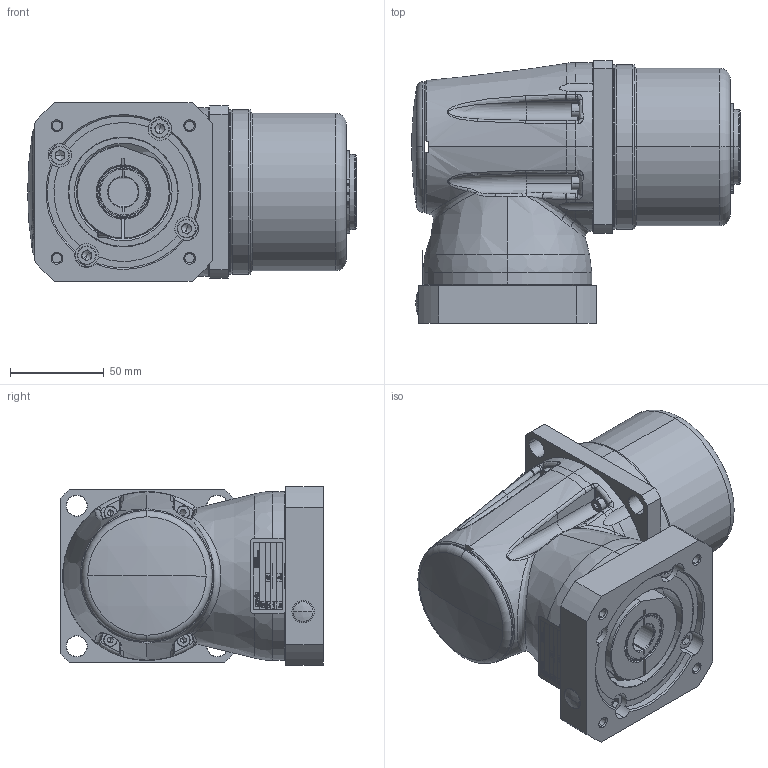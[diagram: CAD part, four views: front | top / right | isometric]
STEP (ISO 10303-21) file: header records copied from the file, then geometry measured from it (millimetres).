
FILE_DESCRIPTION (( 'STEP AP214' ), '1' );
FILE_NAME ('FL-020-0RR-FFF-MMM-S-LL-XXX-AXX-DDCC.STEP', '2019-10-30T15:43:29', ( '' ), ( '' ), 'SwSTEP 2.0', 'SolidWorks 2019', '' );
FILE_SCHEMA (( 'AUTOMOTIVE_DESIGN' ));
Length unit declared in the file: millimetre
Products named in the file (1): FL-020-0RR-FFF-MMM-S-LL-XXX-AXX-DDCC
Bounding box: 175.3 x 140 x 95 mm (x, y, z)
Surface area: 112871.1 mm2 (no closed solid volume)
Topology: 0 solids, 82 shells, 579 faces, 2692 edges, 2168 vertices
Faces by surface type: plane 188, cylinder 152, cone 108, bspline 65, torus 62, sphere 4
Entity records: 43963 total; most frequent: CARTESIAN_POINT 17884, ORIENTED_EDGE 3765, DIRECTION 3457, EDGE_CURVE 2678, VERTEX_POINT 2168, VECTOR 1165, LINE 1165, AXIS2_PLACEMENT_3D 1146
